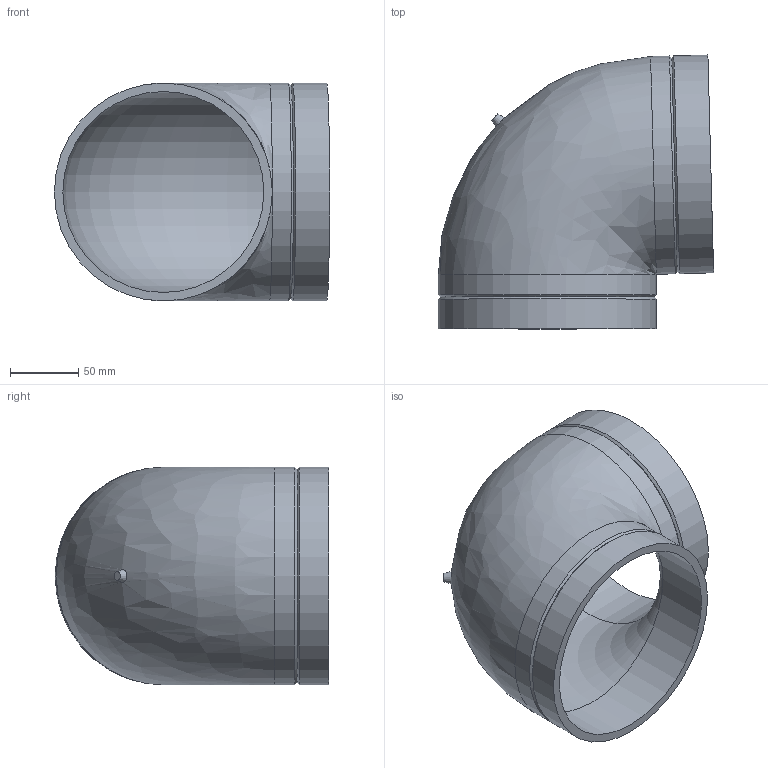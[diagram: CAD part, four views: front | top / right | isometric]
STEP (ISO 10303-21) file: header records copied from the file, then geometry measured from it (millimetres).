
FILE_DESCRIPTION(/* description */ (''),/* implementation_level */ '2;1');
FILE_NAME(/* name */ 'Z:\Geberit\Export\NewStep\369088.stp',/* time_stamp */ '2014-04-02T08:01:48+02:00',/* author */ ('nelson'),/* organization */ (''),/* preprocessor_version */ 'ST-DEVELOPER v15.2',/* originating_system */ 'Autodesk Inventor 2014',/* authorisation */ '');
FILE_SCHEMA (('AUTOMOTIVE_DESIGN { 1 0 10303 214 3 1 1 }'));
Length unit declared in the file: millimetre
Products named in the file (1): 369088
Bounding box: 202.09 x 201.07 x 160 mm (x, y, z)
Volume: 618611.5 mm3; surface area: 206327.5 mm2
Topology: 1 solids, 1 shells, 16 faces, 34 edges, 19 vertices
Faces by surface type: cylinder 6, cone 5, plane 3, torus 1, bspline 1
Full cylindrical faces by diameter (mm): 147.6 x2, 160 x4
Entity records: 459 total; most frequent: CARTESIAN_POINT 169, DIRECTION 62, ORIENTED_EDGE 32, EDGE_LOOP 31, AXIS2_PLACEMENT_3D 31, FACE_BOUND 17, EDGE_CURVE 16, ADVANCED_FACE 16
